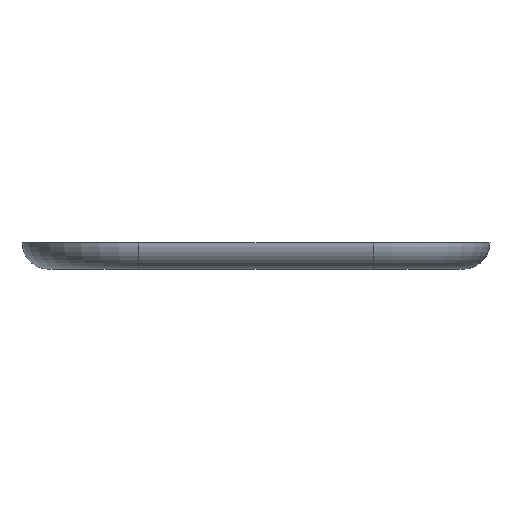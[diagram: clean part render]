
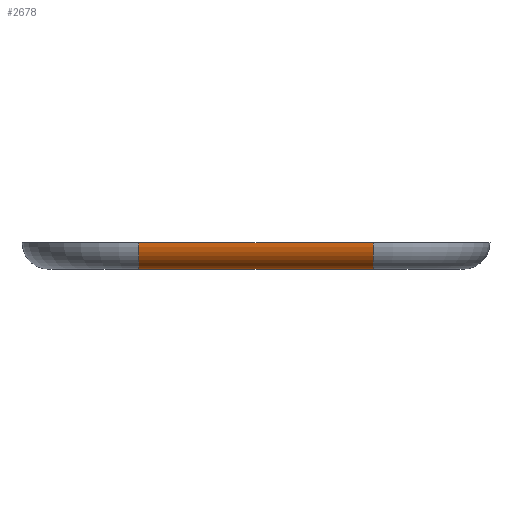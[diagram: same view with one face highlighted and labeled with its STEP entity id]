
A CAD part, front view. The second image highlights one B-rep face of the part: STEP entity #2678.
In plain terms, the highlighted cylindrical face has radius 5 mm (diameter 10 mm), a partial arc.
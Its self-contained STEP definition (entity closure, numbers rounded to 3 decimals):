
#73 = PLANE('',#74);
#74 = AXIS2_PLACEMENT_3D('',#75,#76,#77);
#75 = CARTESIAN_POINT('',(-44.,-68.,-12.75));
#76 = DIRECTION('',(0.,0.,1.));
#77 = DIRECTION('',(1.,0.,-0.));
#102 = TOROIDAL_SURFACE('',#103,17.,5.);
#103 = AXIS2_PLACEMENT_3D('',#104,#105,#106);
#104 = CARTESIAN_POINT('',(-22.,-46.,-7.75));
#105 = DIRECTION('',(-0.,-0.,-1.));
#106 = DIRECTION('',(0.,-1.,0.));
#127 = PLANE('',#128);
#128 = AXIS2_PLACEMENT_3D('',#129,#130,#131);
#129 = CARTESIAN_POINT('',(-90.,-110.,-7.8));
#130 = DIRECTION('',(0.,0.,1.));
#131 = DIRECTION('',(1.,0.,-0.));
#144 = VERTEX_POINT('',#145);
#145 = CARTESIAN_POINT('',(-22.,-68.,-7.8));
#171 = EDGE_CURVE('',#172,#144,#174,.T.);
#172 = VERTEX_POINT('',#173);
#173 = CARTESIAN_POINT('',(22.,-68.,-7.8));
#174 = SURFACE_CURVE('',#175,(#179,#186),.PCURVE_S1.);
#175 = LINE('',#176,#177);
#176 = CARTESIAN_POINT('',(22.,-68.,-7.8));
#177 = VECTOR('',#178,1.);
#178 = DIRECTION('',(-1.,-0.,-0.));
#179 = PCURVE('',#127,#180);
#180 = DEFINITIONAL_REPRESENTATION('',(#181),#185);
#181 = LINE('',#182,#183);
#182 = CARTESIAN_POINT('',(112.,42.));
#183 = VECTOR('',#184,1.);
#184 = DIRECTION('',(-1.,0.));
#185 = ( GEOMETRIC_REPRESENTATION_CONTEXT(2) 
PARAMETRIC_REPRESENTATION_CONTEXT() REPRESENTATION_CONTEXT('2D SPACE',''
  ) );
#186 = PCURVE('',#187,#192);
#187 = CYLINDRICAL_SURFACE('',#188,5.);
#188 = AXIS2_PLACEMENT_3D('',#189,#190,#191);
#189 = CARTESIAN_POINT('',(22.,-63.,-7.75));
#190 = DIRECTION('',(-1.,-0.,-0.));
#191 = DIRECTION('',(0.,-1.,0.));
#192 = DEFINITIONAL_REPRESENTATION('',(#193),#196);
#193 = B_SPLINE_CURVE_WITH_KNOTS('',1,(#194,#195),.UNSPECIFIED.,.F.,.F.,
  (2,2),(0.,44.),.PIECEWISE_BEZIER_KNOTS.);
#194 = CARTESIAN_POINT('',(6.273,0.));
#195 = CARTESIAN_POINT('',(6.273,44.));
#196 = ( GEOMETRIC_REPRESENTATION_CONTEXT(2) 
PARAMETRIC_REPRESENTATION_CONTEXT() REPRESENTATION_CONTEXT('2D SPACE',''
  ) );
#219 = TOROIDAL_SURFACE('',#220,17.,5.);
#220 = AXIS2_PLACEMENT_3D('',#221,#222,#223);
#221 = CARTESIAN_POINT('',(22.,-46.,-7.75));
#222 = DIRECTION('',(-0.,-0.,-1.));
#223 = DIRECTION('',(1.,0.,-0.));
#742 = VERTEX_POINT('',#743);
#743 = CARTESIAN_POINT('',(-22.,-63.,-12.75));
#769 = EDGE_CURVE('',#770,#742,#772,.T.);
#770 = VERTEX_POINT('',#771);
#771 = CARTESIAN_POINT('',(22.,-63.,-12.75));
#772 = SURFACE_CURVE('',#773,(#777,#784),.PCURVE_S1.);
#773 = LINE('',#774,#775);
#774 = CARTESIAN_POINT('',(22.,-63.,-12.75));
#775 = VECTOR('',#776,1.);
#776 = DIRECTION('',(-1.,-0.,-0.));
#777 = PCURVE('',#73,#778);
#778 = DEFINITIONAL_REPRESENTATION('',(#779),#783);
#779 = LINE('',#780,#781);
#780 = CARTESIAN_POINT('',(66.,5.));
#781 = VECTOR('',#782,1.);
#782 = DIRECTION('',(-1.,0.));
#783 = ( GEOMETRIC_REPRESENTATION_CONTEXT(2) 
PARAMETRIC_REPRESENTATION_CONTEXT() REPRESENTATION_CONTEXT('2D SPACE',''
  ) );
#784 = PCURVE('',#187,#785);
#785 = DEFINITIONAL_REPRESENTATION('',(#786),#790);
#786 = LINE('',#787,#788);
#787 = CARTESIAN_POINT('',(4.712,0.));
#788 = VECTOR('',#789,1.);
#789 = DIRECTION('',(-0.,1.));
#790 = ( GEOMETRIC_REPRESENTATION_CONTEXT(2) 
PARAMETRIC_REPRESENTATION_CONTEXT() REPRESENTATION_CONTEXT('2D SPACE',''
  ) );
#1036 = EDGE_CURVE('',#144,#742,#1037,.T.);
#1037 = SURFACE_CURVE('',#1038,(#1043,#1050),.PCURVE_S1.);
#1038 = CIRCLE('',#1039,5.);
#1039 = AXIS2_PLACEMENT_3D('',#1040,#1041,#1042);
#1040 = CARTESIAN_POINT('',(-22.,-63.,-7.75));
#1041 = DIRECTION('',(1.,0.,0.));
#1042 = DIRECTION('',(0.,-1.,0.));
#1043 = PCURVE('',#102,#1044);
#1044 = DEFINITIONAL_REPRESENTATION('',(#1045),#1049);
#1045 = LINE('',#1046,#1047);
#1046 = CARTESIAN_POINT('',(0.,0.));
#1047 = VECTOR('',#1048,1.);
#1048 = DIRECTION('',(0.,1.));
#1049 = ( GEOMETRIC_REPRESENTATION_CONTEXT(2) 
PARAMETRIC_REPRESENTATION_CONTEXT() REPRESENTATION_CONTEXT('2D SPACE',''
  ) );
#1050 = PCURVE('',#187,#1051);
#1051 = DEFINITIONAL_REPRESENTATION('',(#1052),#1056);
#1052 = LINE('',#1053,#1054);
#1053 = CARTESIAN_POINT('',(6.283,44.));
#1054 = VECTOR('',#1055,1.);
#1055 = DIRECTION('',(-1.,0.));
#1056 = ( GEOMETRIC_REPRESENTATION_CONTEXT(2) 
PARAMETRIC_REPRESENTATION_CONTEXT() REPRESENTATION_CONTEXT('2D SPACE',''
  ) );
#2656 = EDGE_CURVE('',#172,#770,#2657,.T.);
#2657 = SURFACE_CURVE('',#2658,(#2663,#2670),.PCURVE_S1.);
#2658 = CIRCLE('',#2659,5.);
#2659 = AXIS2_PLACEMENT_3D('',#2660,#2661,#2662);
#2660 = CARTESIAN_POINT('',(22.,-63.,-7.75));
#2661 = DIRECTION('',(1.,0.,0.));
#2662 = DIRECTION('',(0.,-1.,0.));
#2663 = PCURVE('',#219,#2664);
#2664 = DEFINITIONAL_REPRESENTATION('',(#2665),#2669);
#2665 = LINE('',#2666,#2667);
#2666 = CARTESIAN_POINT('',(1.571,0.));
#2667 = VECTOR('',#2668,1.);
#2668 = DIRECTION('',(0.,1.));
#2669 = ( GEOMETRIC_REPRESENTATION_CONTEXT(2) 
PARAMETRIC_REPRESENTATION_CONTEXT() REPRESENTATION_CONTEXT('2D SPACE',''
  ) );
#2670 = PCURVE('',#187,#2671);
#2671 = DEFINITIONAL_REPRESENTATION('',(#2672),#2676);
#2672 = LINE('',#2673,#2674);
#2673 = CARTESIAN_POINT('',(6.283,0.));
#2674 = VECTOR('',#2675,1.);
#2675 = DIRECTION('',(-1.,0.));
#2676 = ( GEOMETRIC_REPRESENTATION_CONTEXT(2) 
PARAMETRIC_REPRESENTATION_CONTEXT() REPRESENTATION_CONTEXT('2D SPACE',''
  ) );
#2678 = ADVANCED_FACE('',(#2679),#187,.T.);
#2679 = FACE_BOUND('',#2680,.T.);
#2680 = EDGE_LOOP('',(#2681,#2682,#2683,#2684));
#2681 = ORIENTED_EDGE('',*,*,#1036,.T.);
#2682 = ORIENTED_EDGE('',*,*,#769,.F.);
#2683 = ORIENTED_EDGE('',*,*,#2656,.F.);
#2684 = ORIENTED_EDGE('',*,*,#171,.T.);
